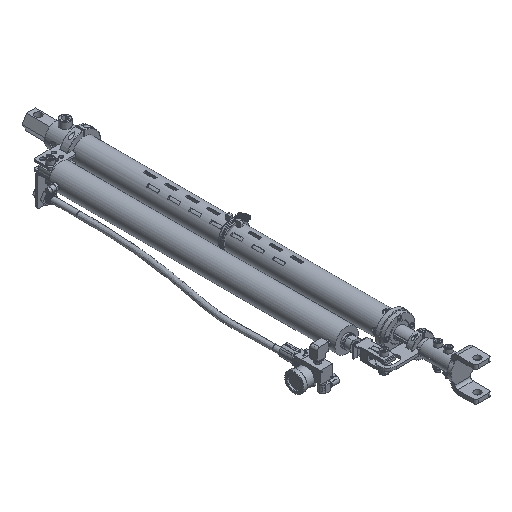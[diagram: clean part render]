
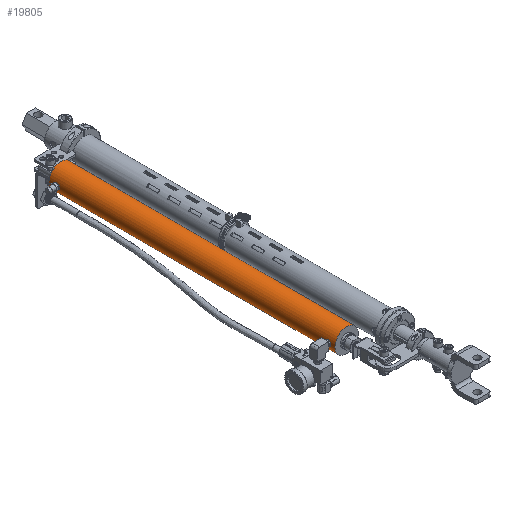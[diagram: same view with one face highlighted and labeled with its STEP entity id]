
A CAD part, isometric view. The second image highlights one B-rep face of the part: STEP entity #19805.
In plain terms, the highlighted cylindrical face has radius 28.575 mm (diameter 57.15 mm), a full revolution.
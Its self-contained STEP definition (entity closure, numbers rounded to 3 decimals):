
#15995=CYLINDRICAL_SURFACE('',#47047,28.575);
#17016=FACE_BOUND('',#24363,.T.);
#17017=FACE_BOUND('',#24364,.T.);
#17018=FACE_BOUND('',#24365,.T.);
#17019=FACE_BOUND('',#24366,.T.);
#18365=CIRCLE('',#47045,28.575);
#18366=CIRCLE('',#47046,28.575);
#19805=ADVANCED_FACE('',(#17016,#17017,#17018,#17019),#15995,.T.);
#24363=EDGE_LOOP('',(#33226));
#24364=EDGE_LOOP('',(#33227));
#24365=EDGE_LOOP('',(#33228));
#24366=EDGE_LOOP('',(#33229));
#33226=ORIENTED_EDGE('',*,*,#42494,.T.);
#33227=ORIENTED_EDGE('',*,*,#42495,.T.);
#33228=ORIENTED_EDGE('',*,*,#42496,.F.);
#33229=ORIENTED_EDGE('',*,*,#42497,.T.);
#39029=VERTEX_POINT('',#75990);
#39030=VERTEX_POINT('',#76009);
#39031=VERTEX_POINT('',#76011);
#39032=VERTEX_POINT('',#76013);
#42494=EDGE_CURVE('',#39029,#39029,#45175,.T.);
#42495=EDGE_CURVE('',#39030,#39030,#45176,.T.);
#42496=EDGE_CURVE('',#39031,#39031,#18365,.T.);
#42497=EDGE_CURVE('',#39032,#39032,#18366,.T.);
#45175=B_SPLINE_CURVE_WITH_KNOTS('',3,(#75972,#75973,#75974,#75975,#75976,
#75977,#75978,#75979,#75980,#75981,#75982,#75983,#75984,#75985,#75986,#75987,
#75988,#75989),.UNSPECIFIED.,.T.,.F.,(2,2,2,2,2,2,2,2,2,2,2),(-0.125,0.,
0.125,0.25,0.375,0.5,0.625,0.75,0.875,1.,1.125),.UNSPECIFIED.);
#45176=B_SPLINE_CURVE_WITH_KNOTS('',3,(#75991,#75992,#75993,#75994,#75995,
#75996,#75997,#75998,#75999,#76000,#76001,#76002,#76003,#76004,#76005,#76006,
#76007,#76008),.UNSPECIFIED.,.T.,.F.,(2,2,2,2,2,2,2,2,2,2,2),(-0.125,0.,
0.125,0.25,0.375,0.5,0.625,0.75,0.875,1.,1.125),.UNSPECIFIED.);
#47045=AXIS2_PLACEMENT_3D('',#76010,#52342,#52343);
#47046=AXIS2_PLACEMENT_3D('',#76012,#52344,#52345);
#47047=AXIS2_PLACEMENT_3D('',#76014,#52346,#52347);
#52342=DIRECTION('',(0.,1.,0.));
#52343=DIRECTION('',(-1.,0.,0.));
#52344=DIRECTION('',(0.,1.,0.));
#52345=DIRECTION('',(-1.,0.,0.));
#52346=DIRECTION('',(0.,-1.,0.));
#52347=DIRECTION('',(1.,0.,0.));
#75972=CARTESIAN_POINT('',(-109.325,707.457,-3.822));
#75973=CARTESIAN_POINT('',(-108.889,710.119,-6.253));
#75974=CARTESIAN_POINT('',(-108.708,711.924,-6.904));
#75975=CARTESIAN_POINT('',(-108.746,715.507,-6.751));
#75976=CARTESIAN_POINT('',(-108.962,717.258,-5.938));
#75977=CARTESIAN_POINT('',(-109.392,719.677,-3.321));
#75978=CARTESIAN_POINT('',(-109.571,720.352,-1.522));
#75979=CARTESIAN_POINT('',(-109.535,720.198,2.102));
#75980=CARTESIAN_POINT('',(-109.322,719.371,3.836));
#75981=CARTESIAN_POINT('',(-108.892,716.746,6.236));
#75982=CARTESIAN_POINT('',(-108.708,714.93,6.902));
#75983=CARTESIAN_POINT('',(-108.745,711.343,6.753));
#75984=CARTESIAN_POINT('',(-108.961,709.594,5.945));
#75985=CARTESIAN_POINT('',(-109.393,707.161,3.313));
#75986=CARTESIAN_POINT('',(-109.571,706.495,1.501));
#75987=CARTESIAN_POINT('',(-109.535,706.646,-2.076));
#75988=CARTESIAN_POINT('',(-109.325,707.457,-3.822));
#75989=CARTESIAN_POINT('',(-108.889,710.119,-6.253));
#75990=CARTESIAN_POINT('',(-109.107,708.788,-5.037));
#75991=CARTESIAN_POINT('',(-109.325,48.645,-3.822));
#75992=CARTESIAN_POINT('',(-108.889,51.306,-6.253));
#75993=CARTESIAN_POINT('',(-108.708,53.112,-6.904));
#75994=CARTESIAN_POINT('',(-108.746,56.694,-6.751));
#75995=CARTESIAN_POINT('',(-108.962,58.445,-5.938));
#75996=CARTESIAN_POINT('',(-109.392,60.864,-3.321));
#75997=CARTESIAN_POINT('',(-109.571,61.539,-1.522));
#75998=CARTESIAN_POINT('',(-109.535,61.385,2.102));
#75999=CARTESIAN_POINT('',(-109.322,60.559,3.836));
#76000=CARTESIAN_POINT('',(-108.892,57.934,6.236));
#76001=CARTESIAN_POINT('',(-108.708,56.118,6.902));
#76002=CARTESIAN_POINT('',(-108.745,52.53,6.753));
#76003=CARTESIAN_POINT('',(-108.961,50.781,5.945));
#76004=CARTESIAN_POINT('',(-109.393,48.348,3.313));
#76005=CARTESIAN_POINT('',(-109.571,47.682,1.501));
#76006=CARTESIAN_POINT('',(-109.535,47.833,-2.076));
#76007=CARTESIAN_POINT('',(-109.325,48.645,-3.822));
#76008=CARTESIAN_POINT('',(-108.889,51.306,-6.253));
#76009=CARTESIAN_POINT('',(-109.107,49.976,-5.037));
#76010=CARTESIAN_POINT('',(-80.979,730.885,0.));
#76011=CARTESIAN_POINT('',(-109.554,730.885,0.));
#76012=CARTESIAN_POINT('',(-80.979,37.148,0.));
#76013=CARTESIAN_POINT('',(-109.554,37.148,0.));
#76014=CARTESIAN_POINT('',(-80.979,730.885,0.));
